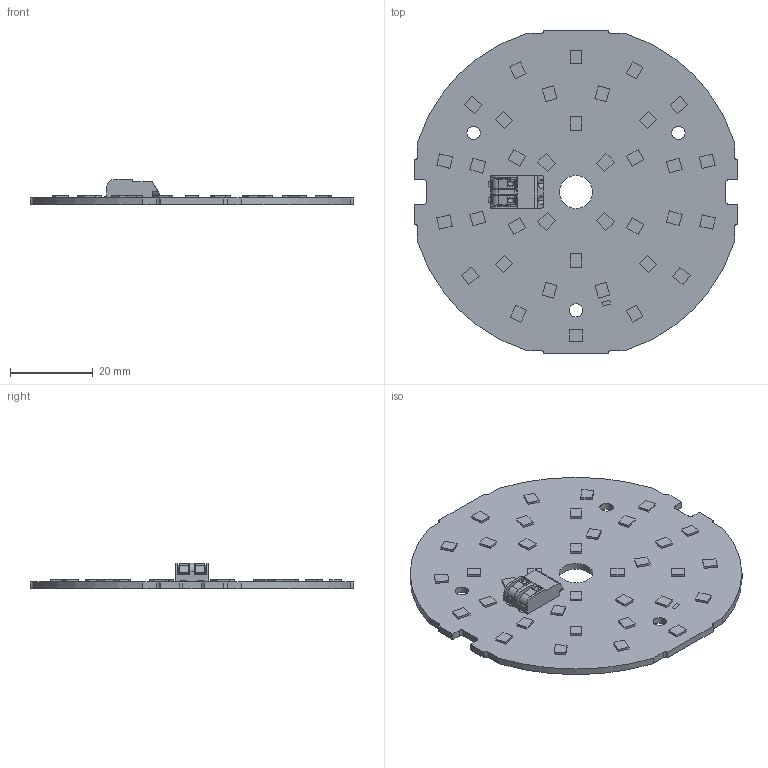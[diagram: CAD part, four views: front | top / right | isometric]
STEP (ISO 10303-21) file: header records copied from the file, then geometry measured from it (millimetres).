
FILE_DESCRIPTION((''),'2;1');
FILE_NAME('16208887_CLE-80-ADV5','2021-11-03T08:09:33',('Bernhard.Fink'),(''),'CREO PARAMETRIC BY PTC INC, 2019164','CREO PARAMETRIC BY PTC INC, 2019164','');
FILE_SCHEMA(('CONFIG_CONTROL_DESIGN'));
Length unit declared in the file: millimetre
Products named in the file (1): 16208887_CLE-80-ADV5
Bounding box: 78 x 78 x 6.15 mm (x, y, z)
Volume: 8468.7 mm3; surface area: 11003.7 mm2
Topology: 1 solids, 1 shells, 415 faces, 1131 edges, 759 vertices
Faces by surface type: plane 332, cylinder 81, sphere 2
Entity records: 14762 total; most frequent: CARTESIAN_POINT 4045, ORIENTED_EDGE 2262, DIRECTION 2105, EDGE_CURVE 1131, VECTOR 921, LINE 921, VERTEX_POINT 759, AXIS2_PLACEMENT_3D 592
